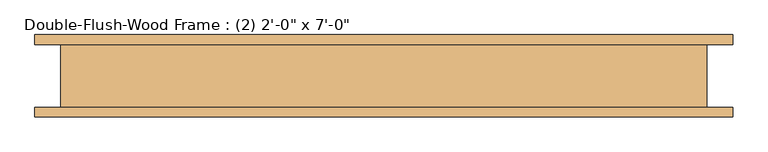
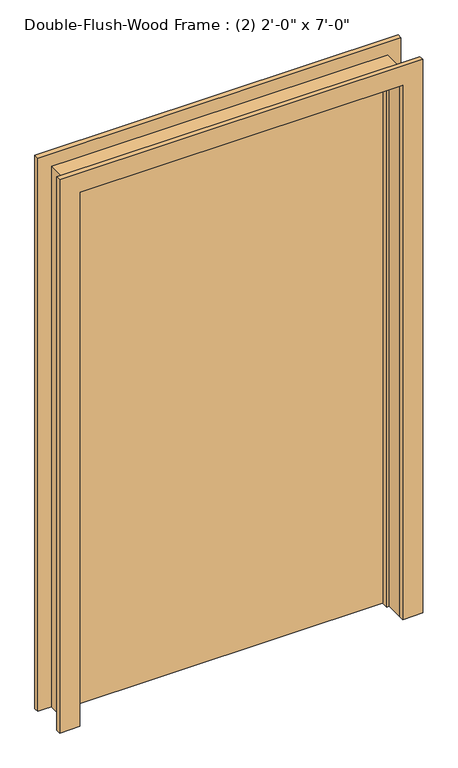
"""IFC4 building model written with IfcOpenShell, lengths in millimetres: door geometry."""

from ifc_helpers import new_model, si_unit, frame, origin, origin_with_axes, place, context, project, spatial, polyline, outline, extrude, faceted_brep, source, transform, mapped, element, save


def door_5f36bbb1(model_context):
    return source(origin(), model_context, "Body", "SolidModel", [
        extrude(outline(polyline([(2209.8, -685.8), (0.0, -685.8), (0.0, -609.6), (2133.6, -609.6), (2133.6, 609.6), (0.0, 609.6), (0.0, 685.8), (2209.8, 685.8), (2209.8, -685.8)])), frame((0.0, 61.9125, 0.0), z_axis=(0.0, 1.0, 0.0), x_axis=(0.0, 0.0, 1.0)), (0.0, 0.0, 1.0), 19.05),
        extrude(outline(polyline([(2209.8, 685.8), (2209.8, -685.8), (0.0, -685.8), (0.0, -609.6), (2133.6, -609.6), (2133.6, 609.6), (0.0, 609.6), (0.0, 685.8), (2209.8, 685.8)])), frame((0.0, -80.9625, 0.0), z_axis=(0.0, 1.0, 0.0), x_axis=(0.0, 0.0, 1.0)), (0.0, 0.0, 1.0), 19.05),
        extrude(outline(polyline([(609.6, 31.75), (-609.6, 31.75), (-609.6, 76.2), (609.6, 76.2), (609.6, 31.75)])), origin_with_axes(), (0.0, 0.0, 1.0), 2133.6),
        faceted_brep([(600.075, 31.75, 0.0), (609.6, 31.75, 0.0), (609.6, 61.9125, 0.0), (635.0, 61.9125, 0.0), (635.0, -61.9125, 0.0), (609.6, -61.9125, 0.0), (609.6, 6.35, 0.0), (600.075, 6.35, 0.0), (600.075, 31.75, 2124.075), (-600.075, 31.75, 2124.075), (-600.075, 31.75, 0.0), (-609.6, 31.75, 0.0), (-609.6, 31.75, 2133.6), (609.6, 31.75, 2133.6), (609.6, 61.9125, 2133.6), (-609.6, 61.9125, 2133.6), (-609.6, 61.9125, 0.0), (-635.0, 61.9125, 0.0), (-635.0, 61.9125, 2159.0), (635.0, 61.9125, 2159.0), (635.0, -61.9125, 2159.0), (-635.0, -61.9125, 2159.0), (-635.0, -61.9125, 0.0), (-609.6, -61.9125, 0.0), (-609.6, -61.9125, 2133.6), (609.6, -61.9125, 2133.6), (609.6, 6.35, 2133.6), (-609.6, 6.35, 2133.6), (-609.6, 6.35, 0.0), (-600.075, 6.35, 0.0), (-600.075, 6.35, 2124.075), (600.075, 6.35, 2124.075)], [[[0, 1, 2, 3, 4, 5, 6, 7]], [[1, 0, 8, 9, 10, 11, 12, 13]], [[2, 1, 13, 14]], [[3, 2, 14, 15, 16, 17, 18, 19]], [[4, 3, 19, 20]], [[5, 4, 20, 21, 22, 23, 24, 25]], [[6, 5, 25, 26]], [[7, 6, 26, 27, 28, 29, 30, 31]], [[0, 7, 31, 8]], [[9, 30, 29, 10]], [[10, 29, 28, 23, 22, 17, 16, 11]], [[15, 12, 11, 16]], [[21, 18, 17, 22]], [[27, 24, 23, 28]], [[14, 13, 12, 15]], [[20, 19, 18, 21]], [[26, 25, 24, 27]], [[8, 31, 30, 9]]]),
    ])


if __name__ == "__main__":
    model = new_model("IFC4")
    model_context = context("Model", 3, world=origin())
    ifc_project = project(units=[si_unit("LENGTHUNIT", "METRE", prefix="MILLI")], contexts=[model_context])
    site = spatial("IfcSite", under=ifc_project)
    building = spatial("IfcBuilding", under=site)
    placement = place(None, origin())
    door_shape = door_5f36bbb1(model_context)
    element("IfcDoor", 1, ObjectType="Double-Flush-Wood Frame : (2) 2'-0\" x 7'-0\"", at=placement, inside=building, context=model_context, shape_type="MappedRepresentation", body=[
        mapped(door_shape, transform((0.0, 0.0, 0.0), x_axis=(1.0, 0.0, 0.0), y_axis=(0.0, 1.0, 0.0), z_axis=(0.0, 0.0, 1.0))),
    ])
    save(model, "model.ifc")
